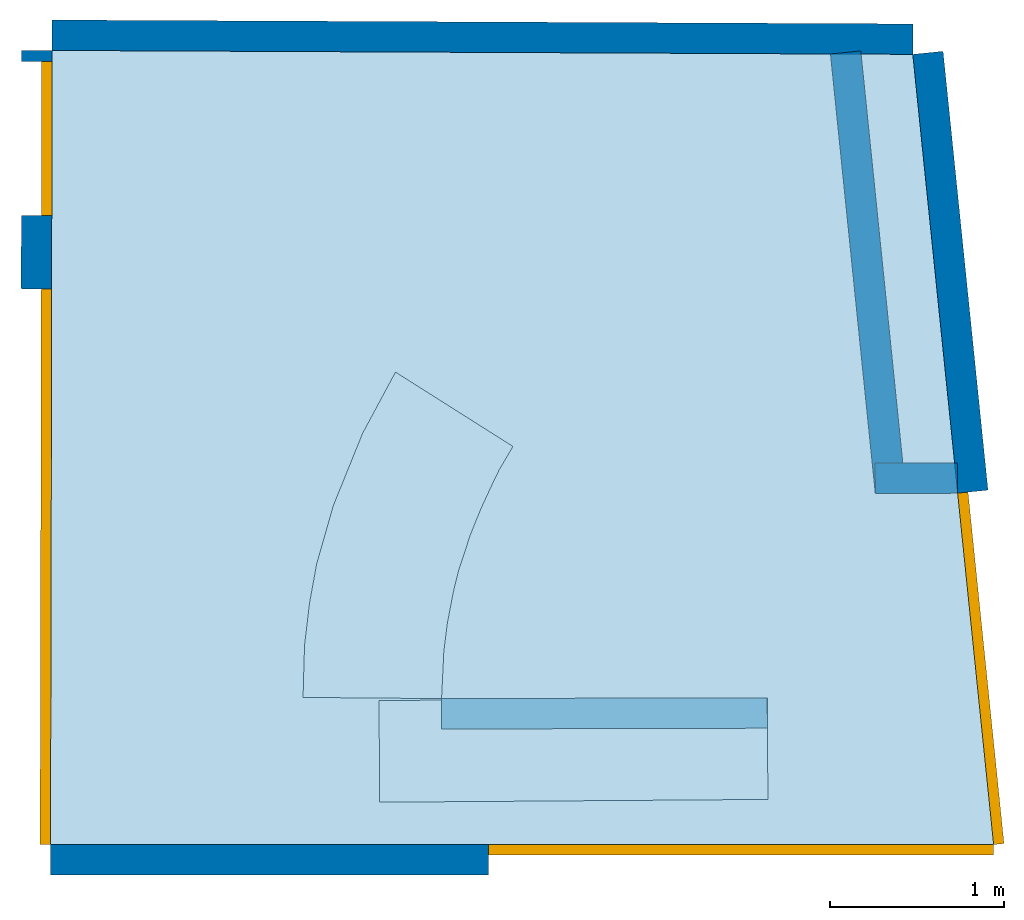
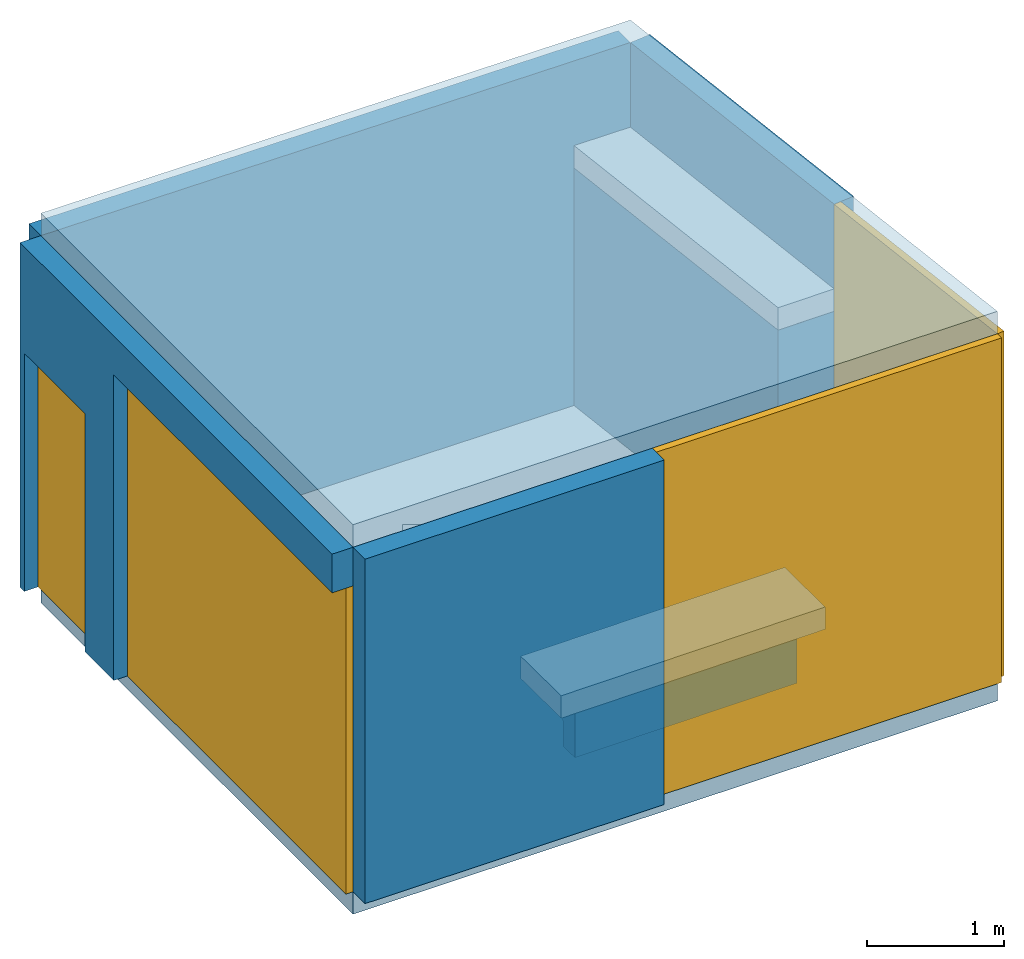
# One storey: 7 walls, 5 slabs, 3 doors, 1 window, 4 openings.
"""IFC2X3 building model written with IfcOpenShell, lengths in metres."""

from ifc_helpers import new_model, si_unit, direction, frame, origin_with_axes, place, context, project, spatial, polyline, outline, extrude, element, fill, save


model = new_model("IFC2X3")

# Units and contexts
model_context = context("Model", 3, precision=1e-05, world=origin_with_axes(), true_north=direction((1.0, 0.0, 0.0)))
ifc_project = project(units=[si_unit("AREAUNIT", "SQUARE_METRE"), si_unit("LENGTHUNIT", "METRE"), si_unit("PLANEANGLEUNIT", "RADIAN"), si_unit("VOLUMEUNIT", "CUBIC_METRE")], contexts=[model_context])

# Building, storey
building_placement = place(None, origin_with_axes())
building = spatial("IfcBuilding", under=ifc_project, at=building_placement, Name="Gebäude [bimCAD App]", CompositionType="ELEMENT")
storey_placement = place(building_placement, origin_with_axes())
storey = spatial("IfcBuildingStorey", under=building, at=storey_placement, Name="EG", CompositionType="ELEMENT", Elevation=0.0)

# Slabs
slab_1_placement = place(storey_placement, frame((-0.129435, 0.546559, 1.559756), z_axis=(0.0, 0.0, 1.0), x_axis=(1.0, 0.0, 0.0)))
element("IfcSlab", 1, at=slab_1_placement, inside=storey, Name="Ceiling", PredefinedType="FLOOR", context=model_context, shape_type="SweptSolid", body=[
    extrude(outline(polyline([(2.825125, -2.277054, 0.0), (2.359977, 2.265808, 0.0), (-2.587779, 2.2883, 0.0), (-2.597322, -2.277054, 0.0), (2.825125, -2.277054, 0.0)])), origin_with_axes(), (0.0, 0.0, 1.0), 0.2),
])
slab_2_placement = place(storey_placement, frame((-0.129435, 0.546559, -1.504627), z_axis=(0.0, 0.0, -1.0), x_axis=(-1.0, 0.0, 0.0)))
element("IfcSlab", 2, at=slab_2_placement, inside=storey, Name="Ground", PredefinedType="FLOOR", context=model_context, shape_type="SweptSolid", body=[
    extrude(outline(polyline([(2.597322, -2.277054, 0.0), (2.587779, 2.2883, 0.0), (-2.359977, 2.265808, 0.0), (-2.825125, -2.277054, 0.0), (2.597322, -2.277054, 0.0)])), origin_with_axes(), (0.0, 0.0, 1.0), 0.2),
])
slab_3_placement = place(storey_placement, frame((-0.646029, -0.063622, -0.777645), z_axis=(0.0, 0.0, 1.0), x_axis=(1.0, 0.0, 0.0)))
element("IfcSlab", 3, at=slab_3_placement, inside=storey, Name="Ceiling", PredefinedType="FLOOR", context=model_context, shape_type="SweptSolid", body=[
    extrude(outline(polyline([(0.577733, 0.622153, 0.0), (-0.097139, 1.04929, 0.0), (-0.285811, 0.698589, 0.0), (-0.455203, 0.280302, 0.0), (-0.550838, -0.05519, 0.0), (-0.591213, -0.277225, 0.0), (-0.619973, -0.520204, 0.0), (-0.625993, -0.722275, 0.0), (-0.628406, -0.820847, 0.0), (0.167784, -0.827509, 0.0), (0.180623, -0.556623, 0.0), (0.201035, -0.393174, 0.0), (0.235488, -0.213756, 0.0), (0.267061, -0.086058, 0.0), (0.333138, 0.113464, 0.0), (0.392219, 0.260364, 0.0), (0.449828, 0.385676, 0.0), (0.499484, 0.48866, 0.0), (0.550182, 0.574362, 0.0), (0.577733, 0.622153, 0.0)])), origin_with_axes(), (0.0, 0.0, 1.0), 0.2),
])
slab_4_placement = place(storey_placement, frame((0.279858, -1.186545, -0.772224), z_axis=(0.0, 0.0, 1.0), x_axis=(1.0, 0.0, 0.0)))
element("IfcSlab", 4, at=slab_4_placement, inside=storey, Name="Ceiling", PredefinedType="FLOOR", context=model_context, shape_type="SweptSolid", body=[
    extrude(outline(polyline([(1.113792, 0.300266, 0.0), (1.117998, -0.284206, 0.0), (-1.113792, -0.300266, 0.0), (-1.117998, 0.284206, 0.0), (1.113792, 0.300266, 0.0)])), origin_with_axes(), (0.0, 0.0, 1.0), 0.2),
])
slab_5_placement = place(storey_placement, frame((2.12254, 1.555293, 0.607184), z_axis=(0.0, 0.0, 1.0), x_axis=(1.0, 0.0, 0.0)))
element("IfcSlab", 5, at=slab_5_placement, inside=storey, Name="Ground", PredefinedType="FLOOR", context=model_context, shape_type="SweptSolid", body=[
    extrude(outline(polyline([(0.366318, -1.265758, 0.0), (-0.107347, -1.268386, 0.0), (-0.365145, 1.259225, 0.0), (0.106175, 1.274919, 0.0), (0.366318, -1.265758, 0.0)])), origin_with_axes(), (0.0, 0.0, 1.0), 0.2),
])

# Wall
wall_1_placement = place(storey_placement, frame((-0.243336, 2.823612, 0.027565), z_axis=(0.004545, 0.99999, 0.0), x_axis=(0.99999, -0.004545, 0.0)))
element("IfcWallStandardCase", 6, at=wall_1_placement, inside=storey, Name="Wall", context=model_context, shape_type="SweptSolid", body=[
    extrude(outline(polyline([(-2.473903, -1.532192, 0.0), (2.473903, -1.532192, 0.0), (2.473903, 1.532192, 0.0), (-2.473903, 1.532192, 0.0), (-2.473903, -1.532192, 0.0)])), origin_with_axes(), (0.0, 0.0, 1.0), 0.175),
])

# Wall, opening, door
wall_2_placement = place(storey_placement, frame((2.463116, 0.540936, 0.027565), z_axis=(0.994799, 0.101858, 0.0), x_axis=(0.101858, -0.994799, 0.0)))
wall_2 = element("IfcWallStandardCase", 7, at=wall_2_placement, inside=storey, Name="Wall", context=model_context, shape_type="SweptSolid", body=[
    extrude(outline(polyline([(-2.283307, -1.532192, 0.0), (2.283307, -1.532192, 0.0), (2.283307, 1.532192, 0.0), (-2.283307, 1.532192, 0.0), (-2.283307, -1.532192, 0.0)])), origin_with_axes(), (0.0, 0.0, 1.0), 0.175),
])
opening_1_placement = place(storey_placement, frame((2.591776, -0.720531, 0.027565), z_axis=(0.994799, 0.101858, 0.0), x_axis=(0.101858, -0.994799, 0.0)))
opening_1 = element("IfcOpeningElement", 8, at=opening_1_placement, inside=storey, cuts=wall_2, Name="Opening", ObjectType="Opening", context=model_context, shape_type="SweptSolid", body=[
    extrude(outline(polyline([(-1.015296, 1.532192, 0.0), (1.015296, 1.532192, 0.0), (1.015296, -1.532192, 0.0), (-1.015296, -1.532192, 0.0), (-1.015296, 1.532192, 0.0)])), origin_with_axes(), (0.0, 0.0, 1.0), 0.375),
])
door_1_placement = place(storey_placement, frame((2.591776, -0.720531, 0.027565), z_axis=(0.994799, 0.101858, 0.0), x_axis=(0.101858, -0.994799, 0.0)))
door_1 = element("IfcDoor", 9, at=door_1_placement, inside=storey, Name="Door", OverallHeight=3.064383, OverallWidth=2.030591, context=model_context, shape_type="SweptSolid", body=[
    extrude(outline(polyline([(-1.015296, 1.532192, 0.0), (1.015296, 1.532192, 0.0), (1.015296, -1.532192, 0.0), (-1.015296, -1.532192, 0.0), (-1.015296, 1.532192, 0.0)])), origin_with_axes(), (0.0, 0.0, 1.0), 0.06),
])
fill(opening_1, door_1)

wall_3_placement = place(storey_placement, frame((-0.015534, -1.730495, 0.027565), z_axis=(0.0, -1.0, 0.0), x_axis=(-1.0, 1e-06, 0.0)))
wall_3 = element("IfcWallStandardCase", 10, at=wall_3_placement, inside=storey, Name="Wall", context=model_context, shape_type="SweptSolid", body=[
    extrude(outline(polyline([(2.711224, 1.532192, 2e-06), (-2.711224, 1.532192, -2e-06), (-2.711224, -1.532192, -2e-06), (2.711224, -1.532192, 2e-06), (2.711224, 1.532192, 2e-06)])), origin_with_axes(), (0.0, 0.0, 1.0), 0.175),
])
opening_2_placement = place(storey_placement, frame((1.24356, -1.729995, 0.027565), z_axis=(0.0, -1.0, 0.0), x_axis=(-1.0, 1e-06, 0.0)))
opening_2 = element("IfcOpeningElement", 11, at=opening_2_placement, inside=storey, cuts=wall_3, Name="Opening", ObjectType="Opening", context=model_context, shape_type="SweptSolid", body=[
    extrude(outline(polyline([(1.452131, 1.532192, 1e-06), (-1.452131, 1.532192, 0.0), (-1.452131, -1.532192, -1e-06), (1.452131, -1.532192, 0.0), (1.452131, 1.532192, 1e-06)])), origin_with_axes(), (0.0, 0.0, 1.0), 0.375),
])
door_2_placement = place(storey_placement, frame((1.24356, -1.729995, 0.027565), z_axis=(0.0, -1.0, 0.0), x_axis=(-1.0, 1e-06, 0.0)))
door_2 = element("IfcDoor", 12, at=door_2_placement, inside=storey, Name="Door", OverallHeight=3.064383, OverallWidth=2.904261, context=model_context, shape_type="SweptSolid", body=[
    extrude(outline(polyline([(1.452131, 1.532192, 1e-06), (-1.452131, 1.532192, 0.0), (-1.452131, -1.532192, -1e-06), (1.452131, -1.532192, 0.0), (1.452131, 1.532192, 1e-06)])), origin_with_axes(), (0.0, 0.0, 1.0), 0.06),
])
fill(opening_2, door_2)

# Wall, openings, door, window
wall_4_placement = place(storey_placement, frame((-2.721986, 0.552181, 0.027565), z_axis=(-0.999998, 0.002091, 0.0), x_axis=(0.002091, 0.999998, 0.0)))
wall_4 = element("IfcWallStandardCase", 13, at=wall_4_placement, inside=storey, Name="Wall", context=model_context, shape_type="SweptSolid", body=[
    extrude(outline(polyline([(-2.282681, -1.532192, 0.0), (2.282681, -1.532192, 0.0), (2.282681, 1.532192, 0.0), (-2.282681, 1.532192, 0.0), (-2.282681, -1.532192, 0.0)])), origin_with_axes(), (0.0, 0.0, 1.0), 0.175),
])
opening_3_placement = place(storey_placement, frame((-2.717774, 2.327821, -0.446462), z_axis=(-0.999998, 0.002091, 0.0), x_axis=(0.002091, 0.999998, 0.0)))
opening_3 = element("IfcOpeningElement", 14, at=opening_3_placement, inside=storey, cuts=wall_4, Name="Opening", ObjectType="Opening", context=model_context, shape_type="SweptSolid", body=[
    extrude(outline(polyline([(-0.442867, -1.059037, 0.0), (0.442867, -1.059037, 0.0), (0.442867, 1.059037, 0.0), (-0.442867, 1.059037, 0.0), (-0.442867, -1.059037, 0.0)])), origin_with_axes(), (0.0, 0.0, 1.0), 0.375),
])
opening_4_placement = place(storey_placement, frame((-2.722918, -0.132969, -0.144731), z_axis=(-0.999998, 0.002091, 0.0), x_axis=(0.002091, 0.999998, 0.0)))
opening_4 = element("IfcOpeningElement", 15, at=opening_4_placement, inside=storey, cuts=wall_4, Name="Opening", ObjectType="Opening", context=model_context, shape_type="SweptSolid", body=[
    extrude(outline(polyline([(-1.59753, -1.359896, 0.0), (1.59753, -1.359896, 0.0), (1.59753, 1.359896, 0.0), (-1.59753, 1.359896, 0.0), (-1.59753, -1.359896, 0.0)])), origin_with_axes(), (0.0, 0.0, 1.0), 0.375),
])
door_3_placement = place(storey_placement, frame((-2.717774, 2.327821, -0.446462), z_axis=(-0.999998, 0.002091, 0.0), x_axis=(0.002091, 0.999998, 0.0)))
door_3 = element("IfcDoor", 16, at=door_3_placement, inside=storey, Name="Door", OverallHeight=2.118075, OverallWidth=0.885734, context=model_context, shape_type="SweptSolid", body=[
    extrude(outline(polyline([(-0.442867, -1.059037, 0.0), (0.442867, -1.059037, 0.0), (0.442867, 1.059037, 0.0), (-0.442867, 1.059037, 0.0), (-0.442867, -1.059037, 0.0)])), origin_with_axes(), (0.0, 0.0, 1.0), 0.06),
])
fill(opening_3, door_3)
window_placement = place(storey_placement, frame((-2.722918, -0.132969, -0.144731), z_axis=(-0.999998, 0.002091, 0.0), x_axis=(0.002091, 0.999998, 0.0)))
window = element("IfcWindow", 17, at=window_placement, inside=storey, Name="Window", OverallHeight=2.719793, OverallWidth=3.195061, context=model_context, shape_type="SweptSolid", body=[
    extrude(outline(polyline([(-1.59753, -1.359896, 0.0), (1.59753, -1.359896, 0.0), (1.59753, 1.359896, 0.0), (-1.59753, 1.359896, 0.0), (-1.59753, -1.359896, 0.0)])), origin_with_axes(), (0.0, 0.0, 1.0), 0.06),
])
fill(opening_4, window)

# Walls
wall_5_placement = place(storey_placement, frame((0.458755, -0.888702, -1.138425), z_axis=(0.002592, -0.999997, 0.0), x_axis=(-0.999997, -0.002592, 0.0)))
element("IfcWallStandardCase", 18, at=wall_5_placement, inside=storey, Name="Wall", context=model_context, shape_type="SweptSolid", body=[
    extrude(outline(polyline([(0.937003, -0.360781, 0.0), (0.934898, 0.366202, 0.0), (-0.937003, 0.360781, 0.0), (-0.934898, -0.366202, 0.0), (0.937003, -0.360781, 0.0)])), origin_with_axes(), (0.0, 0.0, 1.0), 0.175),
])
wall_6_placement = place(storey_placement, frame((1.886294, 1.550713, -0.448721), z_axis=(0.994839, 0.101466, 0.0), x_axis=(0.101466, -0.994839, 0.0)))
element("IfcWallStandardCase", 19, at=wall_6_placement, inside=storey, Name="Wall", context=model_context, shape_type="SweptSolid", body=[
    extrude(outline(polyline([(-1.270362, 1.055906, 0.0), (-1.270362, -1.055906, 0.0), (1.270361, -1.055906, 0.0), (1.270362, 1.055906, 0.0), (-1.270362, 1.055906, 0.0)])), origin_with_axes(), (0.0, 0.0, 1.0), 0.175),
])
wall_7_placement = place(storey_placement, frame((2.252025, 0.288221, -0.448721), z_axis=(-0.005548, 0.999985, 0.0), x_axis=(0.999985, 0.005548, 0.0)))
element("IfcWallStandardCase", 20, at=wall_7_placement, inside=storey, Name="Wall", context=model_context, shape_type="SweptSolid", body=[
    extrude(outline(polyline([(0.236836, 1.055906, 0.0), (-0.236836, 1.055906, 0.0), (-0.236836, -1.055906, 0.0), (0.236836, -1.055906, 0.0), (0.236836, 1.055906, 0.0)])), origin_with_axes(), (0.0, 0.0, 1.0), 0.175),
])

save(model, "model.ifc")
